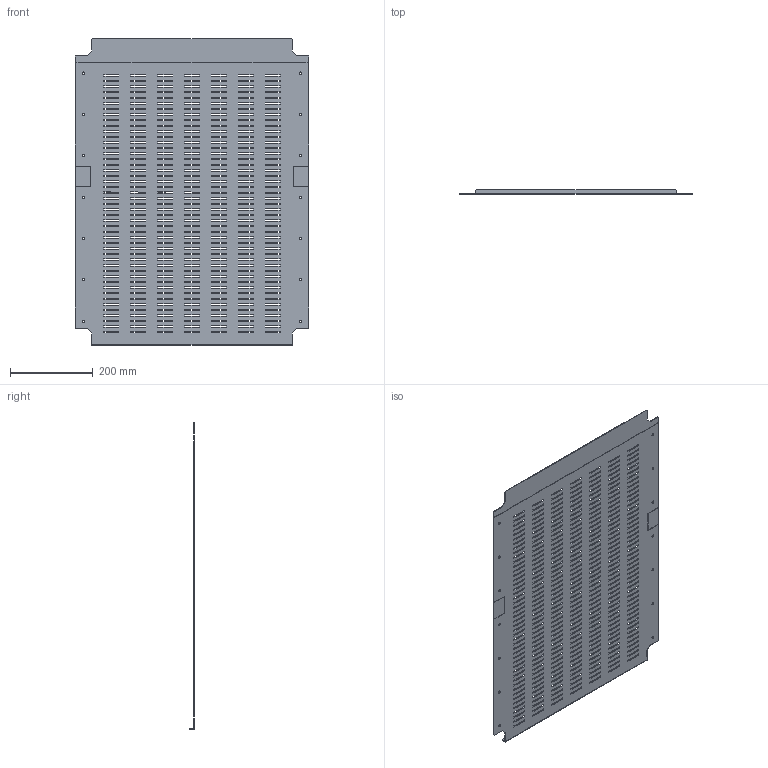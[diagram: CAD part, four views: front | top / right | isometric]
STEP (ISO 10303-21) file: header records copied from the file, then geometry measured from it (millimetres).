
FILE_DESCRIPTION(('CAx-IF Rec.Pracs.---Model Styling and Organization---1.2---2011-12-15','CAx-IF Rec.Pracs.---Geometric and Assembly Validation Properties---4.1---2014-06-16','CAx-IF Rec.Pracs.---PMI Polyline Presentation---2.0---2013-05-24'),'2;1');
FILE_NAME('R5SBB68.stp','2021-05-06T02:25:34+03:00',(''),(''),'STEP Interface 4.4 by CT CoreTechnologie','3D_Evolution4.4 by CT CoreTechnologie','');
FILE_SCHEMA(('AUTOMOTIVE_DESIGN { 1 0 10303 214 1 1 1 1 }'));
Length unit declared in the file: millimetre
Products named in the file (2): R5SBB68; RB.0570.00.00.0_-01(-600x800)
Assembly tree (1 placements, depth 2):
  R5SBB68
    RB.0570.00.00.0_-01(-600x800)
Bounding box: 565 x 11.5 x 742 mm (x, y, z)
Surface area: 796451.6 mm2 (no closed solid volume)
Topology: 0 solids, 1 shells, 1461 faces, 4371 edges, 2912 vertices
Faces by surface type: plane 1431, cylinder 30
Entity records: 49674 total; most frequent: CARTESIAN_POINT 8746, ORIENTED_EDGE 8742, DIRECTION 7357, EDGE_CURVE 4371, VECTOR 4311, LINE 4311, VERTEX_POINT 2912, EDGE_LOOP 2173
